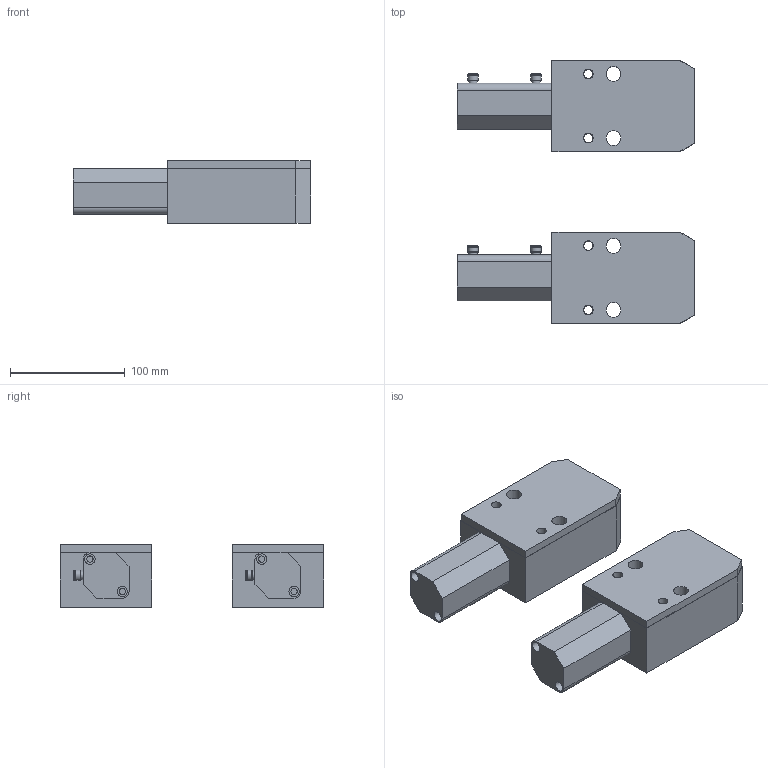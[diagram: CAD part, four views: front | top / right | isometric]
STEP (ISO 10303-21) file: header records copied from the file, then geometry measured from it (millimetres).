
FILE_DESCRIPTION(('STEP AP214'),'1');
FILE_NAME('1004.0040.stp','2020-05-22T14:12:59',(' '),(' '),'Spatial InterOp 3D',' ',' ');
FILE_SCHEMA(('AUTOMOTIVE_DESIGN { 1 0 10303 214 1 1 1 1 }'));
Length unit declared in the file: millimetre
Products named in the file (7): (PMS) 1004.0040; 3; 2; Assemblato; (PMI) 1004.0040; 5; 4
Assembly tree (6 placements, depth 3):
  Assemblato
    (PMS) 1004.0040
      3
      2
    (PMI) 1004.0040
      5
      4
Bounding box: 207.5 x 230 x 55 mm (x, y, z)
Volume: 1105112.5 mm3; surface area: 173869.3 mm2
Topology: 4 solids, 4 shells, 750 faces, 1970 edges, 1310 vertices
Faces by surface type: extrusion 350, plane 298, cylinder 90, torus 12
Full cylindrical faces by diameter (mm): 5.5 x4, 7.5 x8, 8 x4, 8.5 x4, 9 x12, 13 x4, 19 x4, 40 x4, 44 x2
Entity records: 29372 total; most frequent: CARTESIAN_POINT 6073, ORIENTED_EDGE 3816, DIRECTION 2574, EDGE_CURVE 1908, VECTOR 1360, VERTEX_POINT 1306, B_SPLINE_CURVE_WITH_KNOTS 1050, LINE 1010
